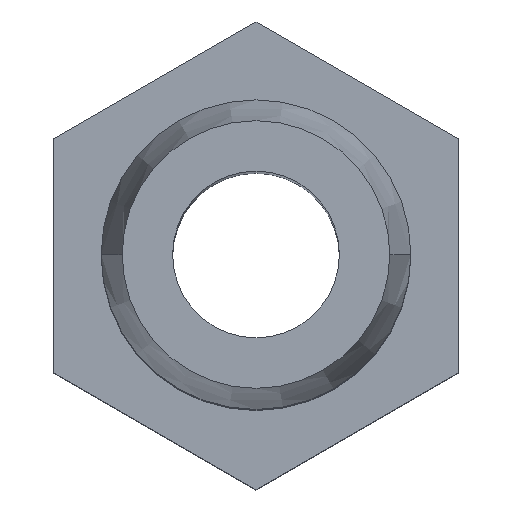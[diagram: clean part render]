
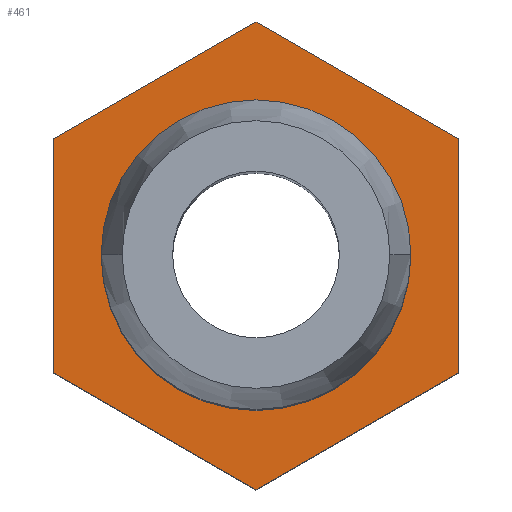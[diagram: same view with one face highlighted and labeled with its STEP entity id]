
A CAD part, top view. The second image highlights one B-rep face of the part: STEP entity #461.
In plain terms, the highlighted planar face has unit normal (0, 0, 1).
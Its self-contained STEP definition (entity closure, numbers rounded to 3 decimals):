
#26 = DIRECTION ( 'NONE',  ( 0.866, -0.5, 0. ) ) ;
#51 = LINE ( 'NONE', #1354, #599 ) ;
#63 = CARTESIAN_POINT ( 'NONE',  ( -8.5, 4.908, 10. ) ) ;
#95 = CARTESIAN_POINT ( 'NONE',  ( 0., 9.815, 10. ) ) ;
#113 = VECTOR ( 'NONE', #1205, 1000. ) ;
#125 = EDGE_LOOP ( 'NONE', ( #466, #340 ) ) ;
#212 = VERTEX_POINT ( 'NONE', #596 ) ;
#228 = AXIS2_PLACEMENT_3D ( 'NONE', #1338, #1351, #1379 ) ;
#257 = VERTEX_POINT ( 'NONE', #584 ) ;
#314 = DIRECTION ( 'NONE',  ( 0.866, 0.5, 0. ) ) ;
#340 = ORIENTED_EDGE ( 'NONE', *, *, #940, .F. ) ;
#434 = DIRECTION ( 'NONE',  ( 1., 0., 0. ) ) ;
#443 = DIRECTION ( 'NONE',  ( 0., 0., 1. ) ) ;
#447 = CARTESIAN_POINT ( 'NONE',  ( 0., 0., 10. ) ) ;
#461 = ADVANCED_FACE ( 'NONE', ( #1087, #973 ), #1156, .F. ) ;
#466 = ORIENTED_EDGE ( 'NONE', *, *, #713, .F. ) ;
#533 = EDGE_LOOP ( 'NONE', ( #544, #547, #645, #593, #657, #813 ) ) ;
#534 = CARTESIAN_POINT ( 'NONE',  ( 6.5, 0., 10. ) ) ;
#544 = ORIENTED_EDGE ( 'NONE', *, *, #908, .T. ) ;
#547 = ORIENTED_EDGE ( 'NONE', *, *, #909, .T. ) ;
#568 = CARTESIAN_POINT ( 'NONE',  ( -8.5, 12.75, 10. ) ) ;
#572 = VERTEX_POINT ( 'NONE', #1291 ) ;
#584 = CARTESIAN_POINT ( 'NONE',  ( 8.5, -4.908, 10. ) ) ;
#593 = ORIENTED_EDGE ( 'NONE', *, *, #924, .T. ) ;
#596 = CARTESIAN_POINT ( 'NONE',  ( -6.5, 0., 10. ) ) ;
#598 = DIRECTION ( 'NONE',  ( -0.866, -0.5, 0. ) ) ;
#599 = VECTOR ( 'NONE', #314, 1000. ) ;
#624 = DIRECTION ( 'NONE',  ( 0., -1., 0. ) ) ;
#645 = ORIENTED_EDGE ( 'NONE', *, *, #922, .T. ) ;
#657 = ORIENTED_EDGE ( 'NONE', *, *, #928, .T. ) ;
#713 = EDGE_CURVE ( 'NONE', #849, #212, #818, .T. ) ;
#716 = VERTEX_POINT ( 'NONE', #1199 ) ;
#733 = DIRECTION ( 'NONE',  ( -0.866, 0.5, 0. ) ) ;
#813 = ORIENTED_EDGE ( 'NONE', *, *, #930, .T. ) ;
#818 = CIRCLE ( 'NONE', #1276, 6.5 ) ;
#849 = VERTEX_POINT ( 'NONE', #534 ) ;
#908 = EDGE_CURVE ( 'NONE', #572, #257, #51, .T. ) ;
#909 = EDGE_CURVE ( 'NONE', #257, #1003, #1347, .T. ) ;
#922 = EDGE_CURVE ( 'NONE', #1003, #1309, #1324, .T. ) ;
#924 = EDGE_CURVE ( 'NONE', #1309, #1068, #1398, .T. ) ;
#926 = CARTESIAN_POINT ( 'NONE',  ( 1.271, 10.549, 10. ) ) ;
#928 = EDGE_CURVE ( 'NONE', #1068, #716, #1360, .T. ) ;
#930 = EDGE_CURVE ( 'NONE', #716, #572, #1211, .T. ) ;
#940 = EDGE_CURVE ( 'NONE', #212, #849, #1135, .T. ) ;
#968 = AXIS2_PLACEMENT_3D ( 'NONE', #1064, #1079, #1071 ) ;
#973 = FACE_BOUND ( 'NONE', #125, .T. ) ;
#1003 = VERTEX_POINT ( 'NONE', #1213 ) ;
#1064 = CARTESIAN_POINT ( 'NONE',  ( 0., 12.75, 10. ) ) ;
#1068 = VERTEX_POINT ( 'NONE', #63 ) ;
#1071 = DIRECTION ( 'NONE',  ( -1., 0., 0. ) ) ;
#1079 = DIRECTION ( 'NONE',  ( 0., 0., -1. ) ) ;
#1087 = FACE_OUTER_BOUND ( 'NONE', #533, .T. ) ;
#1102 = VECTOR ( 'NONE', #26, 1000. ) ;
#1135 = CIRCLE ( 'NONE', #228, 6.5 ) ;
#1156 = PLANE ( 'NONE',  #968 ) ;
#1187 = VECTOR ( 'NONE', #624, 1000. ) ;
#1199 = CARTESIAN_POINT ( 'NONE',  ( -8.5, -4.908, 10. ) ) ;
#1205 = DIRECTION ( 'NONE',  ( 0., 1., 0. ) ) ;
#1211 = LINE ( 'NONE', #1396, #1102 ) ;
#1213 = CARTESIAN_POINT ( 'NONE',  ( 8.5, 4.908, 10. ) ) ;
#1276 = AXIS2_PLACEMENT_3D ( 'NONE', #447, #443, #434 ) ;
#1291 = CARTESIAN_POINT ( 'NONE',  ( 0., -9.815, 10. ) ) ;
#1309 = VERTEX_POINT ( 'NONE', #95 ) ;
#1324 = LINE ( 'NONE', #1352, #1348 ) ;
#1338 = CARTESIAN_POINT ( 'NONE',  ( 0., 0., 10. ) ) ;
#1344 = CARTESIAN_POINT ( 'NONE',  ( 8.5, 12.75, 10. ) ) ;
#1347 = LINE ( 'NONE', #1344, #113 ) ;
#1348 = VECTOR ( 'NONE', #733, 1000. ) ;
#1351 = DIRECTION ( 'NONE',  ( 0., 0., 1. ) ) ;
#1352 = CARTESIAN_POINT ( 'NONE',  ( -1.271, 10.549, 10. ) ) ;
#1354 = CARTESIAN_POINT ( 'NONE',  ( 9.771, -4.174, 10. ) ) ;
#1360 = LINE ( 'NONE', #568, #1187 ) ;
#1373 = VECTOR ( 'NONE', #598, 1000. ) ;
#1379 = DIRECTION ( 'NONE',  ( 1., 0., 0. ) ) ;
#1396 = CARTESIAN_POINT ( 'NONE',  ( -9.771, -4.174, 10. ) ) ;
#1398 = LINE ( 'NONE', #926, #1373 ) ;
